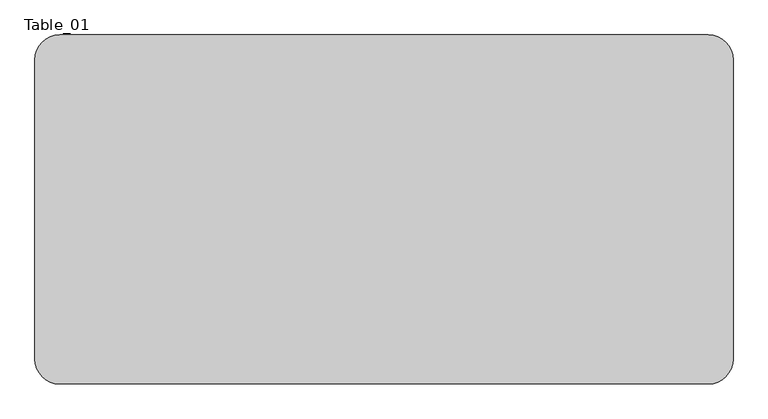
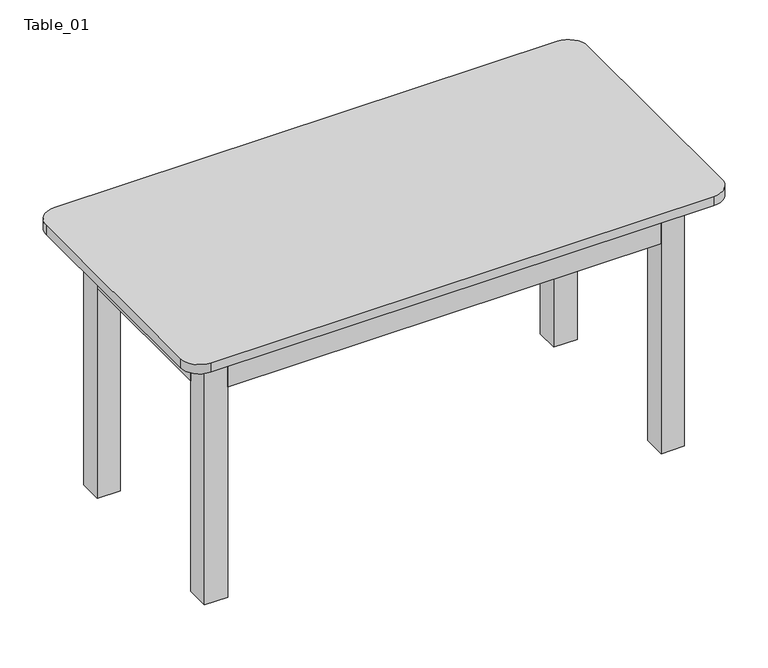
"""IFC4 building model written with IfcOpenShell, lengths in millimetres: furniture geometry, Table_01 : H720 D700 W1200 2."""

from ifc_helpers import new_model, si_unit, point, frame, frame_2d, origin, origin_with_axes, place, context, project, spatial, polyline, circle_curve, trimmed, segment, composite_curve, outline, extrude, source, transform, mapped, element, save


def table_01_49ecd2a0(model_context):
    return source(origin(), model_context, "Body", "SweptSolid", [
        extrude(outline(polyline([(-551.186989, -81.1722238), (-491.186989, -81.1722238), (-491.186989, -141.1722238), (-551.186989, -141.1722238), (-551.186989, -81.1722238)])), origin_with_axes(), (0.0, 0.0, 1.0), 695.0),
        extrude(outline(polyline([(-551.186989, 338.8277762), (-551.186989, 398.8277762), (-491.186989, 398.8277762), (-491.186989, 338.8277762), (-551.186989, 338.8277762)])), origin_with_axes(), (0.0, 0.0, 1.0), 695.0),
        extrude(outline(polyline([(688.813011, -81.1722238), (688.813011, -141.1722238), (628.813011, -141.1722238), (628.813011, -81.1722238), (688.813011, -81.1722238)])), origin_with_axes(), (0.0, 0.0, 1.0), 695.0),
        extrude(outline(polyline([(688.813011, 338.8277762), (628.813011, 338.8277762), (628.813011, 398.8277762), (688.813011, 398.8277762), (688.813011, 338.8277762)])), origin_with_axes(), (0.0, 0.0, 1.0), 695.0),
        extrude(outline(polyline([(628.813011, 398.8277762), (628.813011, 378.8277762), (-491.186989, 378.8277762), (-491.186989, 398.8277762), (628.813011, 398.8277762)])), frame((0.0, 0.0, 575.0), z_axis=(0.0, 0.0, 1.0), x_axis=(1.0, 0.0, 0.0)), (0.0, 0.0, 1.0), 120.0),
        extrude(outline(polyline([(688.813011, 338.8277762), (688.813011, -81.1722238), (668.813011, -81.1722238), (668.813011, 338.8277762), (688.813011, 338.8277762)])), frame((0.0, 0.0, 575.0), z_axis=(0.0, 0.0, 1.0), x_axis=(1.0, 0.0, 0.0)), (0.0, 0.0, 1.0), 120.0),
        extrude(outline(polyline([(-531.186989, 338.8277762), (-531.186989, -81.1722238), (-551.186989, -81.1722238), (-551.186989, 338.8277762), (-531.186989, 338.8277762)])), frame((0.0, 0.0, 575.0), z_axis=(0.0, 0.0, 1.0), x_axis=(1.0, 0.0, 0.0)), (0.0, 0.0, 1.0), 120.0),
        extrude(outline(polyline([(628.813011, -121.1722238), (628.813011, -141.1722238), (-491.186989, -141.1722238), (-491.186989, -121.1722238), (628.813011, -121.1722238)])), frame((0.0, 0.0, 575.0), z_axis=(0.0, 0.0, 1.0), x_axis=(1.0, 0.0, 0.0)), (0.0, 0.0, 1.0), 120.0),
        extrude(outline(composite_curve([segment(trimmed(circle_curve(frame_2d((718.813011, 428.8277762)), 50.0), [point((718.813011, 478.8277762))], [point((768.813011, 428.8277762))], False, "CARTESIAN"), True, "CONTINUOUS"), segment(polyline([(768.813011, 428.8277762), (768.813011, -171.1722238)]), True, "CONTINUOUS"), segment(trimmed(circle_curve(frame_2d((718.813011, -171.1722238)), 50.0), [point((768.813011, -171.1722238))], [point((718.813011, -221.1722238))], False, "CARTESIAN"), True, "CONTINUOUS"), segment(polyline([(718.813011, -221.1722238), (-581.186989, -221.1722238)]), True, "CONTINUOUS"), segment(trimmed(circle_curve(frame_2d((-581.186989, -171.1722238)), 50.0), [point((-581.186989, -221.1722238))], [point((-631.186989, -171.1722238))], False, "CARTESIAN"), True, "CONTINUOUS"), segment(polyline([(-631.186989, -171.1722238), (-631.186989, 428.8277762)]), True, "CONTINUOUS"), segment(trimmed(circle_curve(frame_2d((-581.186989, 428.8277762)), 50.0), [point((-631.186989, 428.8277762))], [point((-581.186989, 478.8277762))], False, "CARTESIAN"), True, "CONTINUOUS"), segment(polyline([(-581.186989, 478.8277762), (718.813011, 478.8277762)]), True, "CONTINUOUS")], self_intersect=False)), frame((0.0, 0.0, 695.0), z_axis=(0.0, 0.0, 1.0), x_axis=(1.0, 0.0, 0.0)), (0.0, 0.0, 1.0), 25.0),
    ])


if __name__ == "__main__":
    model = new_model("IFC4")
    model_context = context("Model", 3, world=origin())
    ifc_project = project(units=[si_unit("LENGTHUNIT", "METRE", prefix="MILLI")], contexts=[model_context])
    site = spatial("IfcSite", under=ifc_project)
    building = spatial("IfcBuilding", under=site)
    placement = place(None, origin())
    table_01_shape = table_01_49ecd2a0(model_context)
    element("IfcFurniture", 1, ObjectType="Table_01 : H720 D700 W1200 2", at=placement, inside=building, context=model_context, shape_type="MappedRepresentation", body=[
        mapped(table_01_shape, transform((0.0, 0.0, 0.0), x_axis=(1.0, 0.0, 0.0), y_axis=(0.0, 1.0, 0.0), z_axis=(0.0, 0.0, 1.0))),
    ])
    save(model, "model.ifc")
